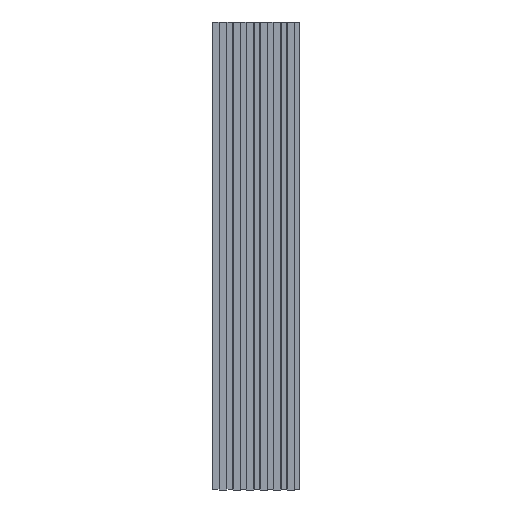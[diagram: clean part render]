
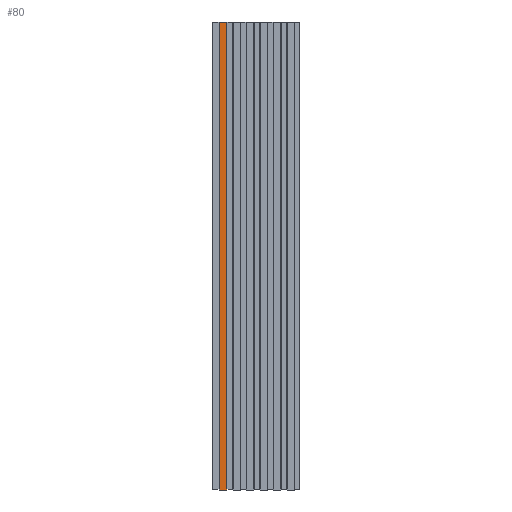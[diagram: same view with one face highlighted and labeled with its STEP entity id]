
A CAD part, front view. The second image highlights one B-rep face of the part: STEP entity #80.
In plain terms, the highlighted planar face has unit normal (0, -1, 0).
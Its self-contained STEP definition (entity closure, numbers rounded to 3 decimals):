
#80=ADVANCED_FACE('',(#246),#2881,.T.);
#246=FACE_OUTER_BOUND('',#412,.T.);
#412=EDGE_LOOP('',(#784,#785,#786,#787));
#784=ORIENTED_EDGE('',*,*,#1564,.T.);
#785=ORIENTED_EDGE('',*,*,#1572,.T.);
#786=ORIENTED_EDGE('',*,*,#1556,.F.);
#787=ORIENTED_EDGE('',*,*,#1573,.F.);
#1556=EDGE_CURVE('',#2553,#2552,#2046,.T.);
#1564=EDGE_CURVE('',#2560,#2561,#2050,.T.);
#1572=EDGE_CURVE('',#2561,#2552,#2058,.T.);
#1573=EDGE_CURVE('',#2560,#2553,#2059,.T.);
#2046=B_SPLINE_CURVE_WITH_KNOTS('',1,(#4516,#4517),.UNSPECIFIED.,.F.,.F.,
(2,2),(-208.566,-172.566),.UNSPECIFIED.);
#2050=B_SPLINE_CURVE_WITH_KNOTS('',1,(#4536,#4537),.UNSPECIFIED.,.F.,.F.,
(2,2),(564.708,600.708),.UNSPECIFIED.);
#2058=B_SPLINE_CURVE_WITH_KNOTS('',1,(#4624,#4625),.UNSPECIFIED.,.F.,.F.,
(2,2),(129.177,2534.),.UNSPECIFIED.);
#2059=B_SPLINE_CURVE_WITH_KNOTS('',1,(#4626,#4627),.UNSPECIFIED.,.F.,.F.,
(2,2),(129.177,2534.),.UNSPECIFIED.);
#2552=VERTEX_POINT('',#4500);
#2553=VERTEX_POINT('',#4501);
#2560=VERTEX_POINT('',#4508);
#2561=VERTEX_POINT('',#4509);
#2881=PLANE('',#3104);
#3104=AXIS2_PLACEMENT_3D('',#4494,#3417,$);
#3417=DIRECTION('',(0.,-1.,0.));
#4494=CARTESIAN_POINT('',(-1286.756,-68.16,-4514.876));
#4500=CARTESIAN_POINT('',(-1250.756,-68.16,-1980.876));
#4501=CARTESIAN_POINT('',(-1286.756,-68.16,-1980.876));
#4508=CARTESIAN_POINT('',(-1286.756,-68.16,-4385.699));
#4509=CARTESIAN_POINT('',(-1250.756,-68.16,-4385.699));
#4516=CARTESIAN_POINT('',(-1286.756,-68.16,-1980.876));
#4517=CARTESIAN_POINT('',(-1250.756,-68.16,-1980.876));
#4536=CARTESIAN_POINT('',(-1286.756,-68.16,-4385.699));
#4537=CARTESIAN_POINT('',(-1250.756,-68.16,-4385.699));
#4624=CARTESIAN_POINT('',(-1250.756,-68.16,-4385.699));
#4625=CARTESIAN_POINT('',(-1250.756,-68.16,-1980.876));
#4626=CARTESIAN_POINT('',(-1286.756,-68.16,-4385.699));
#4627=CARTESIAN_POINT('',(-1286.756,-68.16,-1980.876));
